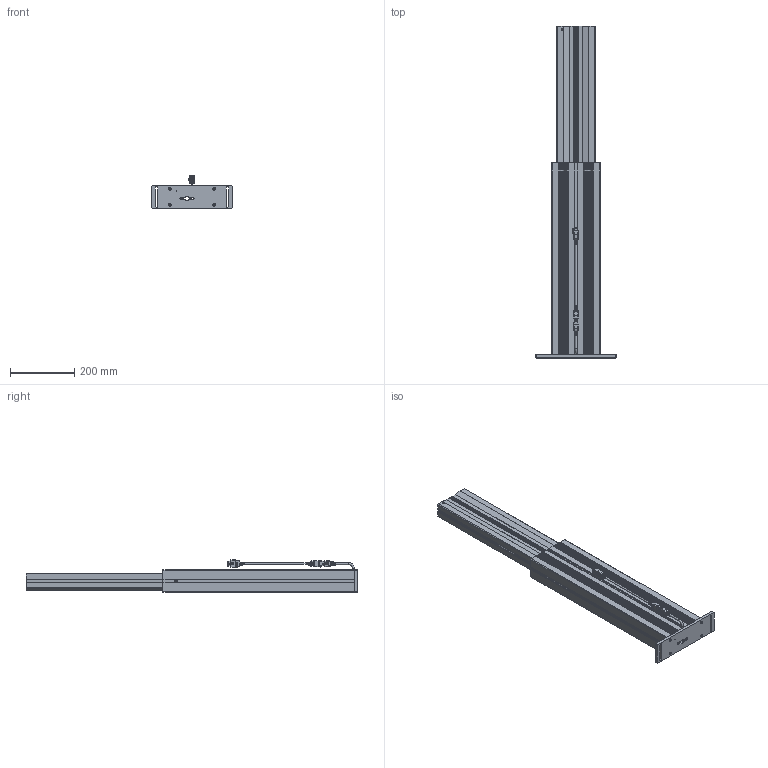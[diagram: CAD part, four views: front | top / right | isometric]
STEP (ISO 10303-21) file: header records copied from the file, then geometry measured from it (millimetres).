
FILE_DESCRIPTION(/* description */ ('Unknown'),/* implementation_level */ '2;1');
FILE_NAME(/* name */ '902.01024_00-Ausgefahren',/* time_stamp */ '2022-01-26T14:18:51+01:00',/* author */ ('Unknown'),/* organization */ ('Unknown'),/* preprocessor_version */ 'ST-DEVELOPER v18.1',/* originating_system */ 'Solid Edge',/* authorisation */ 'Unknown');
FILE_SCHEMA (('AUTOMOTIVE_DESIGN {1 0 10303 214 3 1 1}'));
Products named in the file (12): 902.01024; 126.00138; 119.00312; 119.00311; 142.00166; 124.00201_oa_0; 142.00241; 110.00113_oa_1; 115.00200_oa_2; 124.00151; Kabel Motor Sx; 142.00343
Assembly tree (16 placements, depth 2):
  902.01024
    126.00138
    119.00312
    119.00311
    142.00166  x4
    124.00201_oa_0
    142.00241  x2
    110.00113_oa_1
    115.00200_oa_2
    124.00151
    Kabel Motor Sx
    142.00343  x2
Bounding box: 250 x 1030 x 100.17 mm (x, y, z)
Volume: 2617089.9 mm3; surface area: 1273971.1 mm2
Topology: 13 solids, 13 shells, 3370 faces, 9568 edges, 6336 vertices
Faces by surface type: plane 1939, cylinder 1239, torus 101, bspline 73, cone 12, sphere 6
Full cylindrical faces by diameter (mm): 1.5 x6, 1.82 x6, 2.459 x1, 2.7 x6, 3.242 x2, 3.4 x1, 4 x4, 5 x5, 5.5 x4, 6 x3, 7 x2, 8 x2, 8.5 x4, 8.7 x4, 30 x2
Entity records: 128373 total; most frequent: CARTESIAN_POINT 23132, ORIENTED_EDGE 18662, DIRECTION 18138, EDGE_CURVE 9331, VERTEX_POINT 6220, LINE 6102, VECTOR 6102, AXIS2_PLACEMENT_3D 6018
